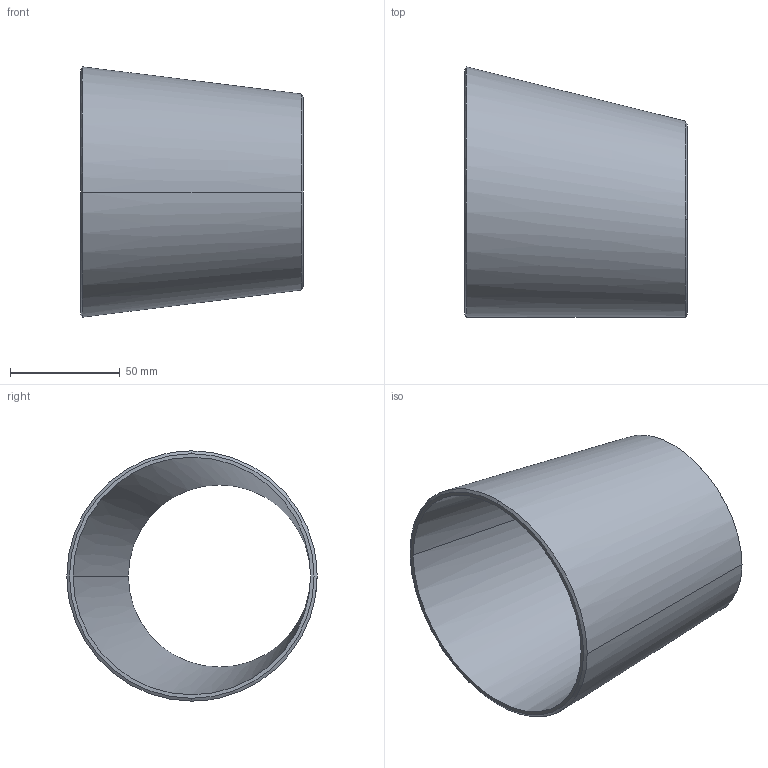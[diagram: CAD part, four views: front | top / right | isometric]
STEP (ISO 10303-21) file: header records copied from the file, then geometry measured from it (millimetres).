
FILE_DESCRIPTION (( 'STEP AP214' ), '1' );
FILE_NAME ('Eccentricity-reducer(2)_Sch10S-100Ax80A.STEP', '2022-06-27T06:57:37', ( 'ASIS User' ), ( 'ASIS User' ), 'SwSTEP 2.0', 'SolidWorks 2022', '' );
FILE_SCHEMA (( 'AUTOMOTIVE_DESIGN' ));
Length unit declared in the file: millimetre
Products named in the file (1): Eccentricity-reducer(2)_Sch10S-100Ax80A
Bounding box: 101.6 x 114.11 x 114.09 mm (x, y, z)
Volume: 94103 mm3; surface area: 65175.2 mm2
Topology: 1 solids, 1 shells, 10 faces, 24 edges, 16 vertices
Faces by surface type: cone 4, bspline 4, plane 2
Entity records: 1650 total; most frequent: CARTESIAN_POINT 1403, ORIENTED_EDGE 48, DIRECTION 34, EDGE_CURVE 24, VERTEX_POINT 16, AXIS2_PLACEMENT_3D 15, B_SPLINE_CURVE_WITH_KNOTS 12, EDGE_LOOP 12
